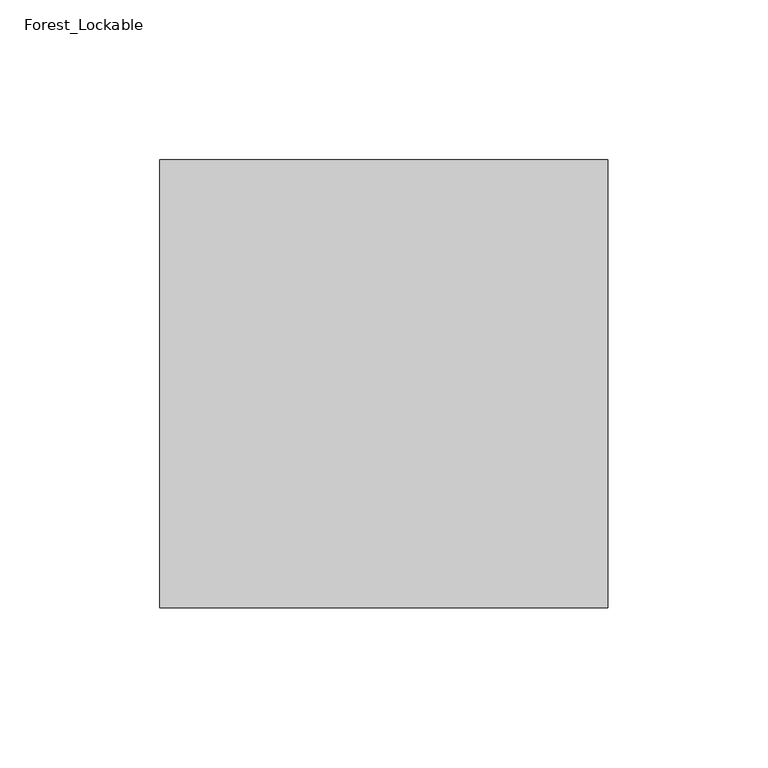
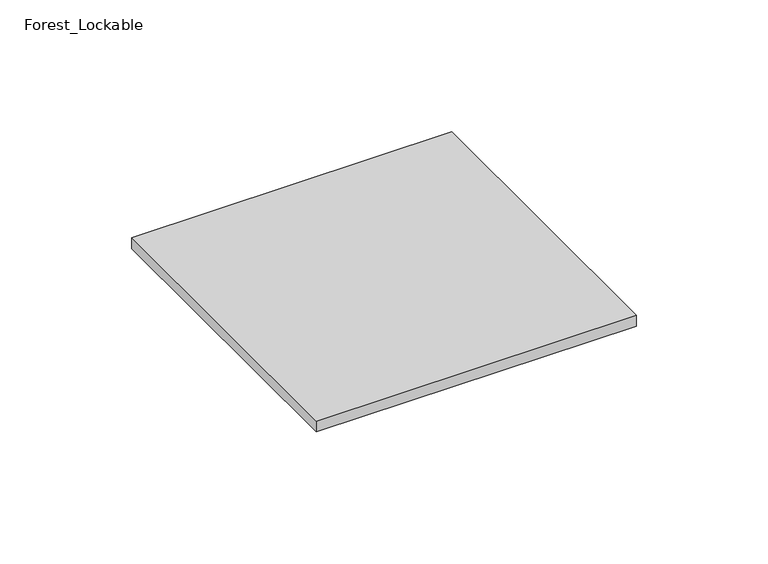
"""IFC4 building model written with IfcOpenShell, lengths in millimetres: sanitary terminal geometry, ZZZ_do_not_use_PF_UN_gratings_ACO : Forest_Lockable."""

import ifcopenshell
import ifcopenshell.guid

model = None  # the IFC model being written
_history = None  # IfcOwnerHistory: only IFC2X3 demands one
_inside = {}  # id of a spatial element -> (the spatial element, [elements in it])
_under = {}  # id of a project, library or spatial element -> (it, [spatial elements below it])
_declared = {}  # id of a project -> (the project, [libraries it declares])
_typed = {}  # id of a type object -> (the type object, [elements of that type])
_made_of = {}  # id of a material, layer set ... -> (it, [elements and type objects made of it])


def new_model(schema):
    """Start an empty IFC model of exactly this schema.

    Asked for "IFC4X3", IfcOpenShell would pick the latest addendum, in which some entities
    have other attributes; the version numbers below select the first issue.
    IFC2X3 requires an IfcOwnerHistory on every rooted entity: one is made here for all.
    """
    global model, _history
    if schema == "IFC4X3":
        model = ifcopenshell.file(schema_version=(4, 3, 0, 0))
    else:
        model = ifcopenshell.file(schema=schema)
    _inside.clear()
    _under.clear()
    _declared.clear()
    _typed.clear()
    _made_of.clear()
    _history = None
    if model.schema == "IFC2X3":
        org = make("IfcOrganization", Name="unknown")
        user = make(
            "IfcPersonAndOrganization",
            ThePerson=make("IfcPerson", FamilyName="unknown"),
            TheOrganization=org,
        )
        app = make(
            "IfcApplication",
            ApplicationDeveloper=org,
            Version="unknown",
            ApplicationFullName="unknown",
            ApplicationIdentifier="unknown",
        )
        _history = make(
            "IfcOwnerHistory",
            OwningUser=user,
            OwningApplication=app,
            ChangeAction="ADDED",
            CreationDate=0,
        )
    return model


def make(cls, **values):
    """One entity of the class cls with the attributes given. An attribute that is None is left unset."""
    return model.create_entity(
        cls, **{name: value for name, value in values.items() if value is not None}
    )


def rooted(cls, **values):
    """An entity with a GlobalId (a new one), such as an element, a storey or a relation."""
    return make(cls, GlobalId=ifcopenshell.guid.new(), OwnerHistory=_history, **values)


def si_unit(unit_type, name, prefix=None):
    """IfcSIUnit, for example si_unit("LENGTHUNIT", "METRE", prefix="MILLI")."""
    return make("IfcSIUnit", UnitType=unit_type, Prefix=prefix, Name=name)


def assignment(units):
    """IfcUnitAssignment: the units of a project."""
    return None if units is None else make("IfcUnitAssignment", Units=units)


def point(xyz):
    """IfcCartesianPoint."""
    return None if xyz is None else make("IfcCartesianPoint", Coordinates=xyz)


def direction(xyz):
    """IfcDirection."""
    return None if xyz is None else make("IfcDirection", DirectionRatios=xyz)


def frame(location, z_axis=None, x_axis=None):
    """IfcAxis2Placement3D, a coordinate frame: its origin and axes. An axis left out is left unset."""
    return make(
        "IfcAxis2Placement3D",
        Location=point(location),
        Axis=direction(z_axis),
        RefDirection=direction(x_axis),
    )


def origin():
    """The frame at (0, 0, 0) with its axes left unset."""
    return frame((0.0, 0.0, 0.0))


def place(relative_to, where):
    """IfcLocalPlacement: puts the frame where relative to a parent placement (None: the world)."""
    return make(
        "IfcLocalPlacement", PlacementRelTo=relative_to, RelativePlacement=where
    )


def context(
    kind, dimensions, precision=None, world=None, true_north=None, identifier=None
):
    """IfcGeometricRepresentationContext, for example the 3D "Model" context."""
    return make(
        "IfcGeometricRepresentationContext",
        ContextIdentifier=identifier,
        ContextType=kind,
        CoordinateSpaceDimension=dimensions,
        Precision=precision,
        WorldCoordinateSystem=world,
        TrueNorth=true_north,
    )


def project(units=None, contexts=None):
    """IfcProject with its units and contexts."""
    return rooted(
        "IfcProject",
        Name="project",
        RepresentationContexts=contexts,
        UnitsInContext=assignment(units),
    )


def spatial(cls, under=None, at=None, **own):
    """A site, building, storey or space (cls), placed at a placement, below another one or the project."""
    s = rooted(cls, ObjectPlacement=at, **own)
    if under is not None:
        _under.setdefault(under.id(), (under, []))[1].append(s)
    return s


def polyline(points):
    """IfcPolyline through the points."""
    return make("IfcPolyline", Points=[point(p) for p in points])


def outline(outer, holes=None, kind="AREA"):
    """IfcArbitraryClosedProfileDef: a profile drawn as a closed curve; with holes, ...WithVoids."""
    if holes is None:
        return make("IfcArbitraryClosedProfileDef", ProfileType=kind, OuterCurve=outer)
    return make(
        "IfcArbitraryProfileDefWithVoids",
        ProfileType=kind,
        OuterCurve=outer,
        InnerCurves=holes,
    )


def extrude(swept, where, along, depth):
    """IfcExtrudedAreaSolid: the profile swept, set in the frame where, extruded along a direction by depth."""
    return make(
        "IfcExtrudedAreaSolid",
        SweptArea=swept,
        Position=where,
        ExtrudedDirection=direction(along),
        Depth=depth,
    )


def shape(context_of_items, identifier, shape_type, items):
    """IfcShapeRepresentation: the items that make up one representation, for example the "Body"."""
    return make(
        "IfcShapeRepresentation",
        ContextOfItems=context_of_items,
        RepresentationIdentifier=identifier,
        RepresentationType=shape_type,
        Items=items,
    )


def source(mapping_origin, context_of_items, identifier, shape_type, items):
    """IfcRepresentationMap: a shape defined once, which mapped items show again and again."""
    return make(
        "IfcRepresentationMap",
        MappingOrigin=mapping_origin,
        MappedRepresentation=shape(context_of_items, identifier, shape_type, items),
    )


def transform(
    local_origin,
    x_axis=None,
    y_axis=None,
    z_axis=None,
    scale=None,
    scale2=None,
    scale3=None,
    uniform=True,
):
    """IfcCartesianTransformationOperator3D, or its non-uniform kind. x_axis, y_axis, z_axis: its Axis1, 2, 3."""
    if uniform:
        return make(
            "IfcCartesianTransformationOperator3D",
            Axis1=direction(x_axis),
            Axis2=direction(y_axis),
            LocalOrigin=point(local_origin),
            Scale=scale,
            Axis3=direction(z_axis),
        )
    return make(
        "IfcCartesianTransformationOperator3DnonUniform",
        Axis1=direction(x_axis),
        Axis2=direction(y_axis),
        LocalOrigin=point(local_origin),
        Scale=scale,
        Axis3=direction(z_axis),
        Scale2=scale2,
        Scale3=scale3,
    )


def mapped(mapping_source, mapping_target):
    """IfcMappedItem: shows the shape of a source again, moved by a transform."""
    return make(
        "IfcMappedItem", MappingSource=mapping_source, MappingTarget=mapping_target
    )


def made_of(thing, what):
    """Note that an element or type object is made of a material, layer set ...; save() writes the relation."""
    if what is not None:
        _made_of.setdefault(what.id(), (what, []))[1].append(thing)
    return thing


def element(
    cls,
    number,
    at=None,
    inside=None,
    cuts=None,
    type_object=None,
    material=None,
    context=None,
    identifier="Body",
    shape_type=None,
    held_by="IfcProductDefinitionShape",
    body=None,
    shapes=None,
    **own,
):
    """One element of the class cls, such as IfcWall. Its Tag is "e" and its number.

    at: its placement. inside: the storey or other place that contains it. cuts: it is an
    opening in that element (IfcRelVoidsElement). A single representation is given by context,
    identifier, shape_type and body (its items); several are given by shapes. held_by: the class
    of the entity that holds the representations. save() writes the other relations.
    """
    e = rooted(cls, Tag="e%d" % number, ObjectPlacement=at, **own)
    if body is not None:
        shapes = [shape(context, identifier, shape_type, body)]
    if shapes is not None:
        e.Representation = make(held_by, Representations=shapes)
    if inside is not None:
        _inside.setdefault(inside.id(), (inside, []))[1].append(e)
    if cuts is not None:
        rooted(
            "IfcRelVoidsElement", RelatingBuildingElement=cuts, RelatedOpeningElement=e
        )
    if type_object is not None:
        _typed.setdefault(type_object.id(), (type_object, []))[1].append(e)
    return made_of(e, material)


def aggregate(whole, parts):
    """IfcRelAggregates: a whole, such as a stair, and the parts it consists of."""
    return rooted("IfcRelAggregates", RelatingObject=whole, RelatedObjects=parts)


def save(model, path):
    """Write the relations noted so far, then the file.

    IfcRelAggregates (storeys below a building ...), IfcRelContainedInSpatialStructure (elements
    in a storey), IfcRelDefinesByType, IfcRelAssociatesMaterial and IfcRelDeclares: one each for
    every whole, place, type object, material and project.
    """
    for whole, parts in _under.values():
        aggregate(whole, parts)
    for where, things in _inside.values():
        rooted(
            "IfcRelContainedInSpatialStructure",
            RelatedElements=things,
            RelatingStructure=where,
        )
    for kind, things in _typed.values():
        rooted("IfcRelDefinesByType", RelatedObjects=things, RelatingType=kind)
    for what, things in _made_of.values():
        rooted("IfcRelAssociatesMaterial", RelatedObjects=things, RelatingMaterial=what)
    for by, libraries in _declared.values():
        rooted("IfcRelDeclares", RelatingContext=by, RelatedDefinitions=libraries)
    model.write(path)


def forest_lockable_cee7f754(model_context):
    return source(origin(), model_context, "Body", "SweptSolid", [
        extrude(outline(polyline([(70.0, 70.0), (70.0, -70.0), (-70.0, -70.0), (-70.0, 70.0), (70.0, 70.0)])), frame((0.0, 0.0, -92.0938197), z_axis=(0.0, 0.0, 1.0), x_axis=(1.0, 0.0, 0.0)), (0.0, 0.0, 1.0), 5.0),
    ])


if __name__ == "__main__":
    model = new_model("IFC4")
    model_context = context("Model", 3, world=origin())
    ifc_project = project(units=[si_unit("LENGTHUNIT", "METRE", prefix="MILLI")], contexts=[model_context])
    site = spatial("IfcSite", under=ifc_project)
    building = spatial("IfcBuilding", under=site)
    placement = place(None, origin())
    forest_lockable_shape = forest_lockable_cee7f754(model_context)
    element("IfcSanitaryTerminal", 1, ObjectType="ZZZ_do_not_use_PF_UN_gratings_ACO : Forest_Lockable", at=placement, inside=building, context=model_context, shape_type="MappedRepresentation", body=[
        mapped(forest_lockable_shape, transform((0.0, 0.0, 0.0), x_axis=(1.0, 0.0, 0.0), y_axis=(0.0, 1.0, 0.0), z_axis=(0.0, 0.0, 1.0))),
    ])
    save(model, "model.ifc")
